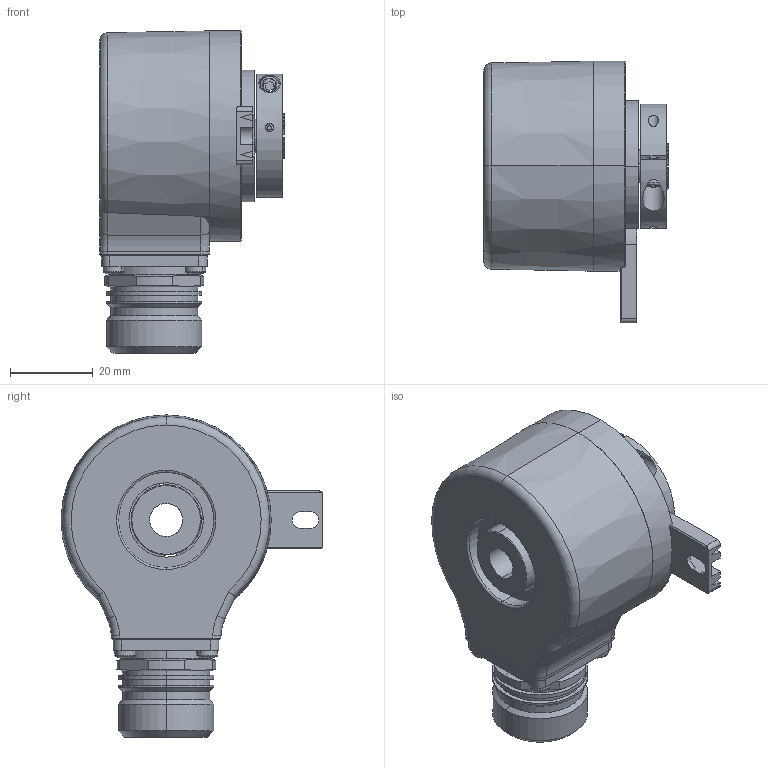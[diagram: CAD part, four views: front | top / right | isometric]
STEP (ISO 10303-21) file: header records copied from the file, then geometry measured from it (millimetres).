
FILE_DESCRIPTION (( 'STEP AP214' ), '1' );
FILE_NAME ('5020.29X4.XXXX.STEP', '2007-08-01T10:16:54', ( 'DanneckerS' ), ( ' ' ), 'SwSTEP 2.0', 'SolidWorks 2007', '' );
FILE_SCHEMA (( 'AUTOMOTIVE_DESIGN' ));
Length unit declared in the file: millimetre
Products named in the file (1): 5020.29X4.XXXX
Bounding box: 44.7 x 63.3 x 77.9 mm (x, y, z)
Surface area: 20357.6 mm2 (no closed solid volume)
Topology: 0 solids, 33 shells, 392 faces, 1112 edges, 742 vertices
Faces by surface type: cylinder 151, plane 141, torus 40, sphere 32, cone 24, bspline 4
Entity records: 17337 total; most frequent: CARTESIAN_POINT 2648, DIRECTION 2384, ORIENTED_EDGE 1918, EDGE_CURVE 1088, AXIS2_PLACEMENT_3D 964, VERTEX_POINT 742, CIRCLE 575, VECTOR 456
